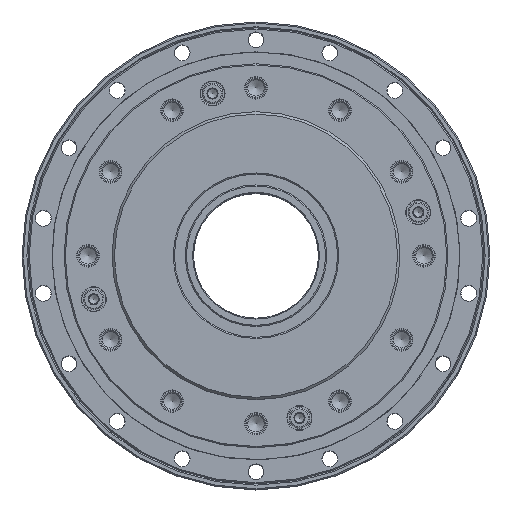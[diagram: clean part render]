
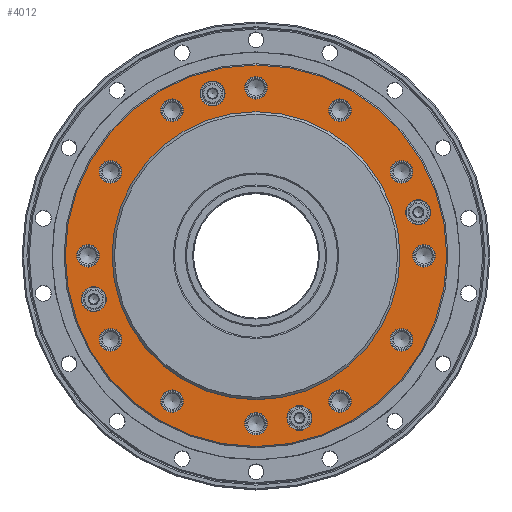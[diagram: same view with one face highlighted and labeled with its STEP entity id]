
A CAD part, top view. The second image highlights one B-rep face of the part: STEP entity #4012.
In plain terms, the highlighted planar face has unit normal (0, 0, 1).
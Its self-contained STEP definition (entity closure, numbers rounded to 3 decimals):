
#3202=PLANE('',#15685);
#4012=ADVANCED_FACE('F5',(#5537,#5538,#5539,#5540,#5541,#5542,#5543,#5544,
#5545,#5546,#5547,#5548,#5549,#5550,#5551,#5552,#5553,#5554),#3202,.T.);
#5537=FACE_BOUND('',#6952,.T.);
#5538=FACE_BOUND('',#6953,.T.);
#5539=FACE_BOUND('',#6954,.T.);
#5540=FACE_BOUND('',#6955,.T.);
#5541=FACE_BOUND('',#6956,.T.);
#5542=FACE_BOUND('',#6957,.T.);
#5543=FACE_BOUND('',#6958,.T.);
#5544=FACE_BOUND('',#6959,.T.);
#5545=FACE_BOUND('',#6960,.T.);
#5546=FACE_BOUND('',#6961,.T.);
#5547=FACE_BOUND('',#6962,.T.);
#5548=FACE_BOUND('',#6963,.T.);
#5549=FACE_BOUND('',#6964,.T.);
#5550=FACE_BOUND('',#6965,.T.);
#5551=FACE_BOUND('',#6966,.T.);
#5552=FACE_BOUND('',#6967,.T.);
#5553=FACE_BOUND('',#6968,.T.);
#5554=FACE_BOUND('',#6969,.T.);
#6952=EDGE_LOOP('',(#9542));
#6953=EDGE_LOOP('',(#9543));
#6954=EDGE_LOOP('',(#9544));
#6955=EDGE_LOOP('',(#9545));
#6956=EDGE_LOOP('',(#9546));
#6957=EDGE_LOOP('',(#9547));
#6958=EDGE_LOOP('',(#9548));
#6959=EDGE_LOOP('',(#9549));
#6960=EDGE_LOOP('',(#9550));
#6961=EDGE_LOOP('',(#9551));
#6962=EDGE_LOOP('',(#9552));
#6963=EDGE_LOOP('',(#9553));
#6964=EDGE_LOOP('',(#9554));
#6965=EDGE_LOOP('',(#9555));
#6966=EDGE_LOOP('',(#9556));
#6967=EDGE_LOOP('',(#9557));
#6968=EDGE_LOOP('',(#9558));
#6969=EDGE_LOOP('',(#9559));
#9542=ORIENTED_EDGE('',*,*,#12674,.T.);
#9543=ORIENTED_EDGE('',*,*,#12671,.F.);
#9544=ORIENTED_EDGE('',*,*,#12734,.F.);
#9545=ORIENTED_EDGE('',*,*,#12735,.F.);
#9546=ORIENTED_EDGE('',*,*,#12736,.F.);
#9547=ORIENTED_EDGE('',*,*,#12737,.F.);
#9548=ORIENTED_EDGE('',*,*,#12738,.F.);
#9549=ORIENTED_EDGE('',*,*,#12739,.F.);
#9550=ORIENTED_EDGE('',*,*,#12740,.F.);
#9551=ORIENTED_EDGE('',*,*,#12741,.F.);
#9552=ORIENTED_EDGE('',*,*,#12742,.F.);
#9553=ORIENTED_EDGE('',*,*,#12743,.F.);
#9554=ORIENTED_EDGE('',*,*,#12744,.F.);
#9555=ORIENTED_EDGE('',*,*,#12745,.F.);
#9556=ORIENTED_EDGE('',*,*,#12746,.F.);
#9557=ORIENTED_EDGE('',*,*,#12747,.F.);
#9558=ORIENTED_EDGE('',*,*,#12748,.F.);
#9559=ORIENTED_EDGE('',*,*,#12749,.F.);
#11260=VERTEX_POINT('',#24560);
#11261=VERTEX_POINT('',#24564);
#11301=VERTEX_POINT('',#24693);
#11302=VERTEX_POINT('',#24695);
#11303=VERTEX_POINT('',#24697);
#11304=VERTEX_POINT('',#24699);
#11305=VERTEX_POINT('',#24701);
#11306=VERTEX_POINT('',#24703);
#11307=VERTEX_POINT('',#24705);
#11308=VERTEX_POINT('',#24707);
#11309=VERTEX_POINT('',#24709);
#11310=VERTEX_POINT('',#24711);
#11311=VERTEX_POINT('',#24713);
#11312=VERTEX_POINT('',#24715);
#11313=VERTEX_POINT('',#24717);
#11314=VERTEX_POINT('',#24719);
#11315=VERTEX_POINT('',#24721);
#11316=VERTEX_POINT('',#24723);
#12671=EDGE_CURVE('',#11260,#11260,#13922,.T.);
#12674=EDGE_CURVE('',#11261,#11261,#13924,.T.);
#12734=EDGE_CURVE('',#11301,#11301,#13963,.T.);
#12735=EDGE_CURVE('',#11302,#11302,#13964,.T.);
#12736=EDGE_CURVE('',#11303,#11303,#13965,.T.);
#12737=EDGE_CURVE('',#11304,#11304,#13966,.T.);
#12738=EDGE_CURVE('',#11305,#11305,#13967,.T.);
#12739=EDGE_CURVE('',#11306,#11306,#13968,.T.);
#12740=EDGE_CURVE('',#11307,#11307,#13969,.T.);
#12741=EDGE_CURVE('',#11308,#11308,#13970,.T.);
#12742=EDGE_CURVE('',#11309,#11309,#13971,.T.);
#12743=EDGE_CURVE('',#11310,#11310,#13972,.T.);
#12744=EDGE_CURVE('',#11311,#11311,#13973,.T.);
#12745=EDGE_CURVE('',#11312,#11312,#13974,.T.);
#12746=EDGE_CURVE('',#11313,#11313,#13975,.T.);
#12747=EDGE_CURVE('',#11314,#11314,#13976,.T.);
#12748=EDGE_CURVE('',#11315,#11315,#13977,.T.);
#12749=EDGE_CURVE('',#11316,#11316,#13978,.T.);
#13922=CIRCLE('',#15600,60.);
#13924=CIRCLE('',#15603,79.5);
#13963=CIRCLE('',#15669,4.7);
#13964=CIRCLE('',#15670,4.7);
#13965=CIRCLE('',#15671,4.7);
#13966=CIRCLE('',#15672,4.7);
#13967=CIRCLE('',#15673,4.7);
#13968=CIRCLE('',#15674,4.7);
#13969=CIRCLE('',#15675,4.7);
#13970=CIRCLE('',#15676,4.7);
#13971=CIRCLE('',#15677,4.7);
#13972=CIRCLE('',#15678,4.7);
#13973=CIRCLE('',#15679,4.7);
#13974=CIRCLE('',#15680,4.7);
#13975=CIRCLE('',#15681,5.2);
#13976=CIRCLE('',#15682,5.2);
#13977=CIRCLE('',#15683,5.2);
#13978=CIRCLE('',#15684,5.2);
#15600=AXIS2_PLACEMENT_3D('',#24561,#19211,#19212);
#15603=AXIS2_PLACEMENT_3D('',#24567,#19218,#19219);
#15669=AXIS2_PLACEMENT_3D('',#24692,#19371,#19372);
#15670=AXIS2_PLACEMENT_3D('',#24694,#19373,#19374);
#15671=AXIS2_PLACEMENT_3D('',#24696,#19375,#19376);
#15672=AXIS2_PLACEMENT_3D('',#24698,#19377,#19378);
#15673=AXIS2_PLACEMENT_3D('',#24700,#19379,#19380);
#15674=AXIS2_PLACEMENT_3D('',#24702,#19381,#19382);
#15675=AXIS2_PLACEMENT_3D('',#24704,#19383,#19384);
#15676=AXIS2_PLACEMENT_3D('',#24706,#19385,#19386);
#15677=AXIS2_PLACEMENT_3D('',#24708,#19387,#19388);
#15678=AXIS2_PLACEMENT_3D('',#24710,#19389,#19390);
#15679=AXIS2_PLACEMENT_3D('',#24712,#19391,#19392);
#15680=AXIS2_PLACEMENT_3D('',#24714,#19393,#19394);
#15681=AXIS2_PLACEMENT_3D('',#24716,#19395,#19396);
#15682=AXIS2_PLACEMENT_3D('',#24718,#19397,#19398);
#15683=AXIS2_PLACEMENT_3D('',#24720,#19399,#19400);
#15684=AXIS2_PLACEMENT_3D('',#24722,#19401,#19402);
#15685=AXIS2_PLACEMENT_3D('',#24724,#19403,#19404);
#19211=DIRECTION('',(0.,0.,1.));
#19212=DIRECTION('',(1.,0.,0.));
#19218=DIRECTION('',(0.,0.,1.));
#19219=DIRECTION('',(1.,0.,0.));
#19371=DIRECTION('',(0.,0.,1.));
#19372=DIRECTION('',(1.,0.,0.));
#19373=DIRECTION('',(0.,0.,1.));
#19374=DIRECTION('',(1.,0.,0.));
#19375=DIRECTION('',(0.,0.,1.));
#19376=DIRECTION('',(1.,0.,0.));
#19377=DIRECTION('',(0.,0.,1.));
#19378=DIRECTION('',(1.,0.,0.));
#19379=DIRECTION('',(0.,0.,1.));
#19380=DIRECTION('',(1.,0.,0.));
#19381=DIRECTION('',(0.,0.,1.));
#19382=DIRECTION('',(1.,0.,0.));
#19383=DIRECTION('',(0.,0.,1.));
#19384=DIRECTION('',(1.,0.,0.));
#19385=DIRECTION('',(0.,0.,1.));
#19386=DIRECTION('',(1.,0.,0.));
#19387=DIRECTION('',(0.,0.,1.));
#19388=DIRECTION('',(1.,0.,0.));
#19389=DIRECTION('',(0.,0.,1.));
#19390=DIRECTION('',(1.,0.,0.));
#19391=DIRECTION('',(0.,0.,1.));
#19392=DIRECTION('',(1.,0.,0.));
#19393=DIRECTION('',(0.,0.,1.));
#19394=DIRECTION('',(1.,0.,0.));
#19395=DIRECTION('',(0.,0.,1.));
#19396=DIRECTION('',(1.,0.,0.));
#19397=DIRECTION('',(0.,0.,1.));
#19398=DIRECTION('',(1.,0.,0.));
#19399=DIRECTION('',(0.,0.,1.));
#19400=DIRECTION('',(1.,0.,0.));
#19401=DIRECTION('',(0.,0.,1.));
#19402=DIRECTION('',(1.,0.,0.));
#19403=DIRECTION('',(0.,0.,1.));
#19404=DIRECTION('',(-1.,0.,0.));
#24560=CARTESIAN_POINT('',(60.,0.,12.));
#24561=CARTESIAN_POINT('',(0.,0.,12.));
#24564=CARTESIAN_POINT('',(79.5,0.,12.));
#24567=CARTESIAN_POINT('',(0.,0.,12.));
#24692=CARTESIAN_POINT('',(0.,70.,12.));
#24693=CARTESIAN_POINT('',(4.7,70.,12.));
#24694=CARTESIAN_POINT('',(35.,60.622,12.));
#24695=CARTESIAN_POINT('',(39.7,60.622,12.));
#24696=CARTESIAN_POINT('',(60.622,35.,12.));
#24697=CARTESIAN_POINT('',(65.322,35.,12.));
#24698=CARTESIAN_POINT('',(70.,0.,12.));
#24699=CARTESIAN_POINT('',(74.7,0.,12.));
#24700=CARTESIAN_POINT('',(60.622,-35.,12.));
#24701=CARTESIAN_POINT('',(65.322,-35.,12.));
#24702=CARTESIAN_POINT('',(35.,-60.622,12.));
#24703=CARTESIAN_POINT('',(39.7,-60.622,12.));
#24704=CARTESIAN_POINT('',(0.,-70.,12.));
#24705=CARTESIAN_POINT('',(4.7,-70.,12.));
#24706=CARTESIAN_POINT('',(-35.,-60.622,12.));
#24707=CARTESIAN_POINT('',(-30.3,-60.622,12.));
#24708=CARTESIAN_POINT('',(-60.622,-35.,12.));
#24709=CARTESIAN_POINT('',(-55.922,-35.,12.));
#24710=CARTESIAN_POINT('',(-70.,0.,12.));
#24711=CARTESIAN_POINT('',(-65.3,0.,12.));
#24712=CARTESIAN_POINT('',(-60.622,35.,12.));
#24713=CARTESIAN_POINT('',(-55.922,35.,12.));
#24714=CARTESIAN_POINT('',(-35.,60.622,12.));
#24715=CARTESIAN_POINT('',(-30.3,60.622,12.));
#24716=CARTESIAN_POINT('',(-18.117,-67.615,12.));
#24717=CARTESIAN_POINT('',(-12.917,-67.615,12.));
#24718=CARTESIAN_POINT('',(18.117,67.615,12.));
#24719=CARTESIAN_POINT('',(23.317,67.615,12.));
#24720=CARTESIAN_POINT('',(67.615,-18.117,12.));
#24721=CARTESIAN_POINT('',(72.815,-18.117,12.));
#24722=CARTESIAN_POINT('',(-67.615,18.117,12.));
#24723=CARTESIAN_POINT('',(-62.415,18.117,12.));
#24724=CARTESIAN_POINT('',(0.,0.,12.));
